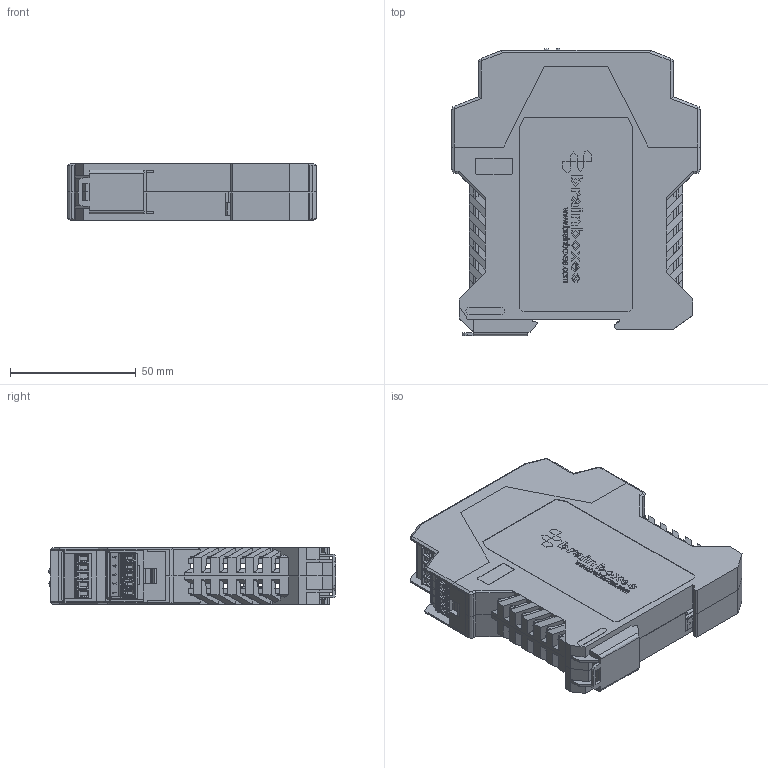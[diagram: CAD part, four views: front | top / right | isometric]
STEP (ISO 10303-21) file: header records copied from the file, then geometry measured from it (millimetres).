
FILE_DESCRIPTION(('STEP AP214'),'1');
FILE_NAME('ES-511 Cased PCB 3D Step.step','2020-12-23T12:26:51',(' '),(' '),'Spatial InterOp 3D','XD3DPlugin XRACreate',' ');
FILE_SCHEMA(('automotive_design'));
Length unit declared in the file: millimetre
Products named in the file (56): Submodel-Input_S\LEDX2BLOCK.xtd; LEDX2BLOCK; Submodel-55LEDX2GREENGREEN_part_simplified_LEDX2BLOCK; DesignRootModel; Submodel-Input_S\00MAGJACKILED.xtd; 00MAGJACKILED; Submodel-00MAGJACKILED_part_simplified_MAGJACK_LEDS; Submodel-Input_S\SMD_ELEC_D.xtd; SMD_ELEC_D; Submodel-7547UF50V_part_simplified_SMD_ELEC_D; Submodel-Input_S\50HEA4X2.xtd; 50HEA4X2; Submodel-50HEA4X2_part_simplified_H100MIL2X4; Submodel-Input_S\50HEA4X1_0.xtd; 50HEA4X1_0; Submodel-50HEA4X1_part_simplified_H100MIL1X4; Submodel-Input_S\6610UH5A5.xtd; 6610UH5A5; Submodel-6610UH5A5_part_simplified_SRR1260; Submodel-Input_S\82HEA3MM5TBX5_R_GREY_0.xtd; 82HEA3MM5TBX5_R_GREY_0; Submodel-82HEA3MM5TBX5_R_YELLOW_part_simplified_TBX5_RIGHT; Submodel-Input_S\82HEA3MM5TBX5_L_BLACK.xtd; 82HEA3MM5TBX5_L_BLACK; Submodel-82HEA3MM5TBX5_L_BLACK_part_simplified_TBX5_LEFT; Submodel-Input_S\40SMTBUTTON_0.xtd; 40SMTBUTTON_0; Submodel-40SMTBUTTON_part_simplified_SMTBUTTON; Submodel-Input_S\SMC.xtd; SMC; Submodel-55TZ1K5SMC36V_part_simplified_SMC; uid__9223372036854780025; Submodel-AssyDefn_94; BrainboxesLogo.step; Submodel-AssyDefn_93; EDCase2Way.sat; Submodel-AssyDefn_92; 82PLUG3MM5_X5_1_5_BLCK.sat; Submodel-AssyDefn_91; 82BLANKFILLER.sat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
Assembly tree (64 placements, depth 5):
  ES-511 Cased PCB 3D Step
    DesignRootModel
      Submodel-55LEDX2GREENGREEN_part_simplified_LEDX2BLOCK  x2
        Submodel-Input_S\LEDX2BLOCK.xtd
          LEDX2BLOCK
      Submodel-00MAGJACKILED_part_simplified_MAGJACK_LEDS
        Submodel-Input_S\00MAGJACKILED.xtd
          00MAGJACKILED
      Submodel-7547UF50V_part_simplified_SMD_ELEC_D
        Submodel-Input_S\SMD_ELEC_D.xtd
          SMD_ELEC_D
      Submodel-50HEA4X2_part_simplified_H100MIL2X4  x3
        Submodel-Input_S\50HEA4X2.xtd
          50HEA4X2
      Submodel-50HEA4X1_part_simplified_H100MIL1X4  x2
        Submodel-Input_S\50HEA4X1_0.xtd
          50HEA4X1_0
      Submodel-6610UH5A5_part_simplified_SRR1260
        Submodel-Input_S\6610UH5A5.xtd
          6610UH5A5
      Submodel-82HEA3MM5TBX5_R_YELLOW_part_simplified_TBX5_RIGHT
        Submodel-Input_S\82HEA3MM5TBX5_R_GREY_0.xtd
          82HEA3MM5TBX5_R_GREY_0
      Submodel-82HEA3MM5TBX5_L_BLACK_part_simplified_TBX5_LEFT
        Submodel-Input_S\82HEA3MM5TBX5_L_BLACK.xtd
          82HEA3MM5TBX5_L_BLACK
      Submodel-40SMTBUTTON_part_simplified_SMTBUTTON
        Submodel-Input_S\40SMTBUTTON_0.xtd
          40SMTBUTTON_0
      Submodel-55TZ1K5SMC36V_part_simplified_SMC  x3
        Submodel-Input_S\SMC.xtd
          SMC
      uid__9223372036854780025
      Submodel-AssyDefn_94  x2
        BrainboxesLogo.step
      Submodel-AssyDefn_93
        EDCase2Way.sat
      Submodel-AssyDefn_92  x2
        82PLUG3MM5_X5_1_5_BLCK.sat
      Submodel-AssyDefn_91
        82BLANKFILLER.sat
      Submodel-DATUM_2441444698_part_DATUM
        Submodel-noModelForPart_DATUM_2441444698
          placementOutline
      Submodel-TOOLINGHOLE_2132796670_part_MOUNTINGHOLE  x2
        Submodel-noModelForPart_TOOLINGHOLE_2132796670
          placementOutline
      Submodel-REJECTMARK_3219705766_part_REJECTMARK
        Submodel-noModelForPart_REJECTMARK_3219705766
          placementOutline
      Submodel-FIDUCIAL_3219705766_part_FIDUCIAL
        Submodel-noModelForPart_FIDUCIAL_3219705766
          placementOutline
      Submodel-CHASSISPINS_566188278_part_CHASSISPINS
        Submodel-noModelForPart_CHASSISPINS_566188278
          placementOutline
Bounding box: 99 x 114.42 x 22.6 mm (x, y, z)
Volume: 90684.3 mm3; surface area: 121518.8 mm2
Topology: 236 solids, 236 shells, 13579 faces, 36450 edges, 23646 vertices
Faces by surface type: plane 10623, cylinder 1986, bspline 568, torus 192, cone 189, sphere 21
Full cylindrical faces by diameter (mm): 0.6 x2, 3.81 x1
Entity records: 450821 total; most frequent: CARTESIAN_POINT 74045, ORIENTED_EDGE 60434, DIRECTION 56100, EDGE_CURVE 30217, LINE 24956, VECTOR 24956, VERTEX_POINT 19617, AXIS2_PLACEMENT_3D 15572
